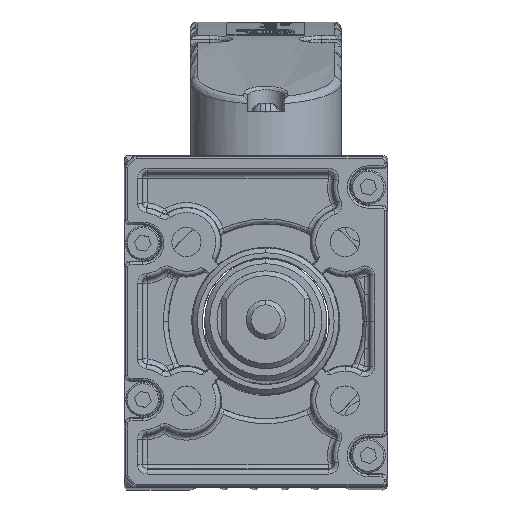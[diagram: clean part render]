
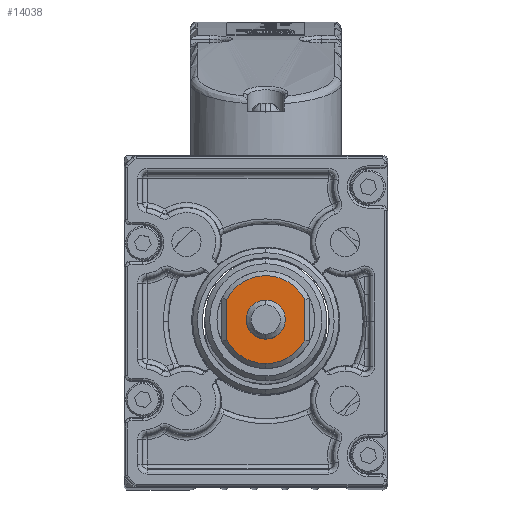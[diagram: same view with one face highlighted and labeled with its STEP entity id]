
A CAD part, top view. The second image highlights one B-rep face of the part: STEP entity #14038.
In plain terms, the highlighted planar face has unit normal (0, 0, 1) as drawn and (0, 0, -1) by its records, which use the part's own axes.
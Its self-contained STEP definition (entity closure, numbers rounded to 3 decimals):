
#7251 = CARTESIAN_POINT ( 'NONE',  ( 10., 0., -674. ) ) ;
#7253 = FACE_BOUND ( 'NONE', #31985, .T. ) ;
#7259 = FACE_OUTER_BOUND ( 'NONE', #31966, .T. ) ;
#7262 = PLANE ( 'NONE',  #25695 ) ;
#7266 = DIRECTION ( 'NONE',  ( 0., 0., -1. ) ) ;
#7268 = DIRECTION ( 'NONE',  ( -1., 0., 0. ) ) ;
#14038 = ADVANCED_FACE ( 'NONE', ( #7259, #7253 ), #7262, .T. ) ;
#17786 = CARTESIAN_POINT ( 'NONE',  ( -4.359, -8., -674. ) ) ;
#17799 = CARTESIAN_POINT ( 'NONE',  ( 4.359, 8., -674. ) ) ;
#17830 = LINE ( 'NONE', #17786, #22841 ) ;
#17831 = CARTESIAN_POINT ( 'NONE',  ( 0., 0., -674. ) ) ;
#17833 = DIRECTION ( 'NONE',  ( 0., 0., 1. ) ) ;
#17835 = DIRECTION ( 'NONE',  ( 1., 0., 0. ) ) ;
#17837 = LINE ( 'NONE', #17799, #22852 ) ;
#17839 = DIRECTION ( 'NONE',  ( -1., 0., 0. ) ) ;
#17846 = CARTESIAN_POINT ( 'NONE',  ( 0., 0., -674. ) ) ;
#17848 = DIRECTION ( 'NONE',  ( 0., 0., -1. ) ) ;
#17850 = DIRECTION ( 'NONE',  ( -1., 0., 0. ) ) ;
#17852 = DIRECTION ( 'NONE',  ( 1., 0., 0. ) ) ;
#17858 = CARTESIAN_POINT ( 'NONE',  ( 0., 0., -674. ) ) ;
#17860 = DIRECTION ( 'NONE',  ( 0., 0., -1. ) ) ;
#17862 = DIRECTION ( 'NONE',  ( -1., 0., 0. ) ) ;
#18218 = CARTESIAN_POINT ( 'NONE',  ( 0., 0., -674. ) ) ;
#18220 = DIRECTION ( 'NONE',  ( 0., 0., 1. ) ) ;
#18222 = DIRECTION ( 'NONE',  ( 1., 0., 0. ) ) ;
#18348 = CARTESIAN_POINT ( 'NONE',  ( 0., 0., -674. ) ) ;
#18350 = DIRECTION ( 'NONE',  ( 0., 0., -1. ) ) ;
#18352 = DIRECTION ( 'NONE',  ( -1., 0., 0. ) ) ;
#20295 = CARTESIAN_POINT ( 'NONE',  ( -4.123, 8., -674. ) ) ;
#20301 = CARTESIAN_POINT ( 'NONE',  ( 4., 0., -674. ) ) ;
#20302 = CARTESIAN_POINT ( 'NONE',  ( -4., 0., -674. ) ) ;
#20304 = CARTESIAN_POINT ( 'NONE',  ( 4.123, -8., -674. ) ) ;
#20348 = CARTESIAN_POINT ( 'NONE',  ( 9., 0., -674. ) ) ;
#22837 = CIRCLE ( 'NONE', #22848, 4. ) ;
#22841 = VECTOR ( 'NONE', #17839, 1000. ) ;
#22845 = CIRCLE ( 'NONE', #22854, 9. ) ;
#22848 = AXIS2_PLACEMENT_3D ( 'NONE', #17831, #17833, #17835 ) ;
#22852 = VECTOR ( 'NONE', #17852, 1000. ) ;
#22854 = AXIS2_PLACEMENT_3D ( 'NONE', #17846, #17848, #17850 ) ;
#22856 = CIRCLE ( 'NONE', #22861, 9. ) ;
#22861 = AXIS2_PLACEMENT_3D ( 'NONE', #17858, #17860, #17862 ) ;
#23045 = CIRCLE ( 'NONE', #23049, 4. ) ;
#23049 = AXIS2_PLACEMENT_3D ( 'NONE', #18218, #18220, #18222 ) ;
#23097 = CIRCLE ( 'NONE', #23101, 9. ) ;
#23101 = AXIS2_PLACEMENT_3D ( 'NONE', #18348, #18350, #18352 ) ;
#25695 = AXIS2_PLACEMENT_3D ( 'NONE', #7251, #7266, #7268 ) ;
#31966 = EDGE_LOOP ( 'NONE', ( #55183, #55186, #55189, #55192, #55195 ) ) ;
#31985 = EDGE_LOOP ( 'NONE', ( #55198, #55201 ) ) ;
#33117 = CARTESIAN_POINT ( 'NONE',  ( -4.123, -8., -674. ) ) ;
#33139 = CARTESIAN_POINT ( 'NONE',  ( 4.123, 8., -674. ) ) ;
#38652 = VERTEX_POINT ( 'NONE', #20295 ) ;
#38659 = VERTEX_POINT ( 'NONE', #20301 ) ;
#38660 = VERTEX_POINT ( 'NONE', #20302 ) ;
#38662 = VERTEX_POINT ( 'NONE', #20304 ) ;
#38706 = VERTEX_POINT ( 'NONE', #20348 ) ;
#38916 = VERTEX_POINT ( 'NONE', #33117 ) ;
#38938 = VERTEX_POINT ( 'NONE', #33139 ) ;
#55183 = ORIENTED_EDGE ( 'NONE', *, *, #68641, .T. ) ;
#55186 = ORIENTED_EDGE ( 'NONE', *, *, #68640, .T. ) ;
#55189 = ORIENTED_EDGE ( 'NONE', *, *, #68639, .T. ) ;
#55192 = ORIENTED_EDGE ( 'NONE', *, *, #68708, .T. ) ;
#55195 = ORIENTED_EDGE ( 'NONE', *, *, #68638, .T. ) ;
#55198 = ORIENTED_EDGE ( 'NONE', *, *, #68691, .T. ) ;
#55201 = ORIENTED_EDGE ( 'NONE', *, *, #68637, .T. ) ;
#68637 = EDGE_CURVE ( 'NONE', #38660, #38659, #22837, .T. ) ;
#68638 = EDGE_CURVE ( 'NONE', #38662, #38916, #17830, .T. ) ;
#68639 = EDGE_CURVE ( 'NONE', #38938, #38706, #22845, .T. ) ;
#68640 = EDGE_CURVE ( 'NONE', #38652, #38938, #17837, .T. ) ;
#68641 = EDGE_CURVE ( 'NONE', #38916, #38652, #22856, .T. ) ;
#68691 = EDGE_CURVE ( 'NONE', #38659, #38660, #23045, .T. ) ;
#68708 = EDGE_CURVE ( 'NONE', #38706, #38662, #23097, .T. ) ;
